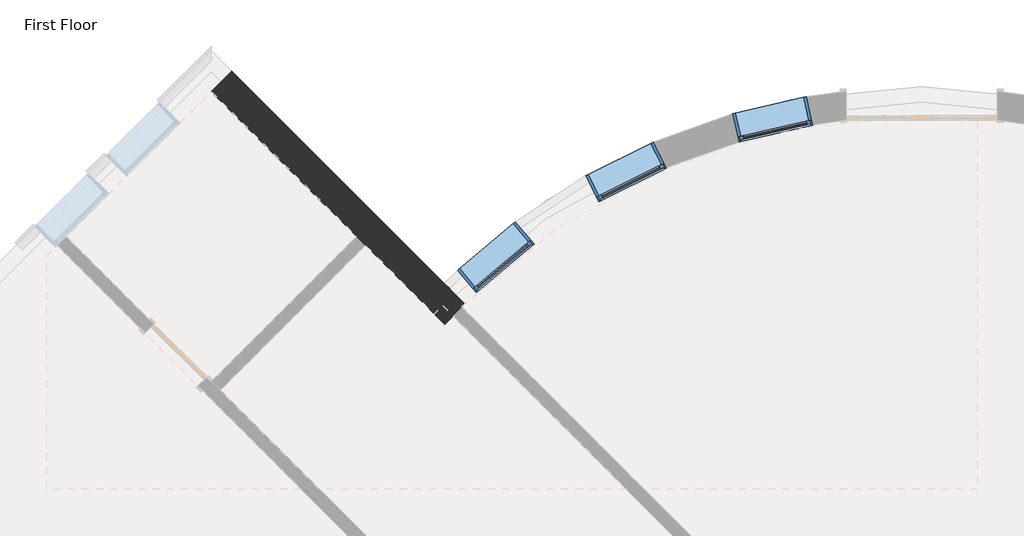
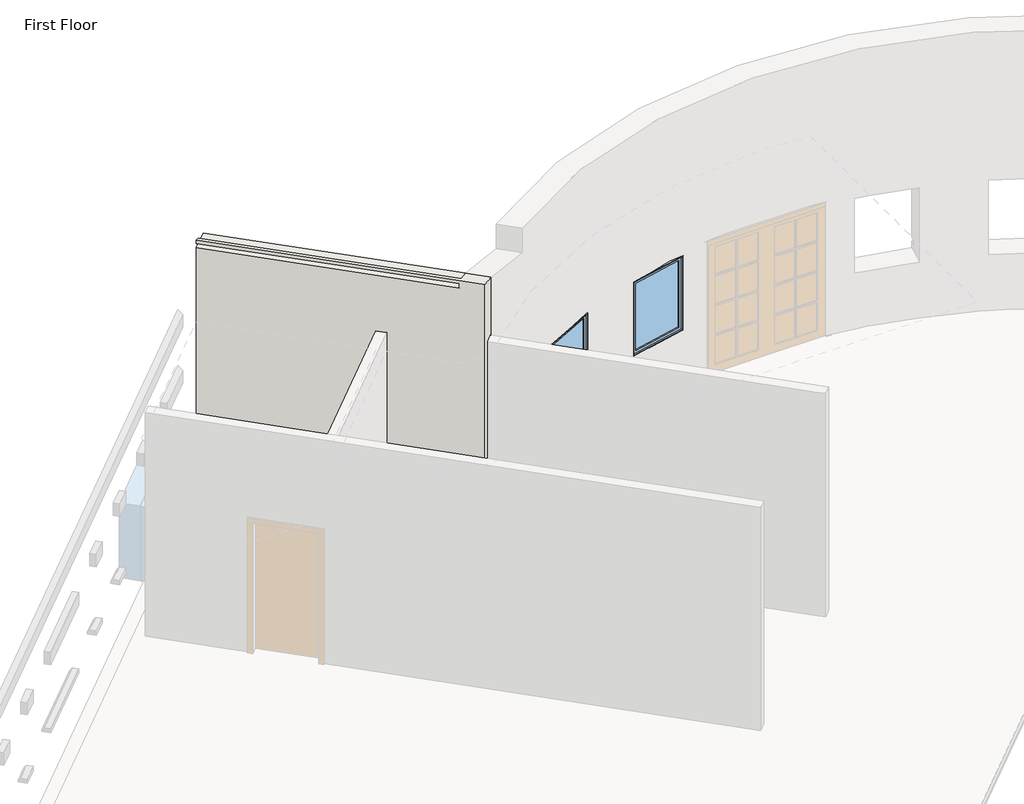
# One storey, part 4 of 7: 3 windows, 1 wall.
"""IFC4 building model written with IfcOpenShell, lengths in millimetres."""

import ifcopenshell
import ifcopenshell.guid

model = None  # the IFC model being written
_history = None  # IfcOwnerHistory: only IFC2X3 demands one
_inside = {}  # id of a spatial element -> (the spatial element, [elements in it])
_under = {}  # id of a project, library or spatial element -> (it, [spatial elements below it])
_declared = {}  # id of a project -> (the project, [libraries it declares])
_typed = {}  # id of a type object -> (the type object, [elements of that type])
_made_of = {}  # id of a material, layer set ... -> (it, [elements and type objects made of it])


def new_model(schema):
    """Start an empty IFC model of exactly this schema.

    Asked for "IFC4X3", IfcOpenShell would pick the latest addendum, in which some entities
    have other attributes; the version numbers below select the first issue.
    IFC2X3 requires an IfcOwnerHistory on every rooted entity: one is made here for all.
    """
    global model, _history
    if schema == "IFC4X3":
        model = ifcopenshell.file(schema_version=(4, 3, 0, 0))
    else:
        model = ifcopenshell.file(schema=schema)
    _inside.clear()
    _under.clear()
    _declared.clear()
    _typed.clear()
    _made_of.clear()
    _history = None
    if model.schema == "IFC2X3":
        org = make("IfcOrganization", Name="unknown")
        user = make(
            "IfcPersonAndOrganization",
            ThePerson=make("IfcPerson", FamilyName="unknown"),
            TheOrganization=org,
        )
        app = make(
            "IfcApplication",
            ApplicationDeveloper=org,
            Version="unknown",
            ApplicationFullName="unknown",
            ApplicationIdentifier="unknown",
        )
        _history = make(
            "IfcOwnerHistory",
            OwningUser=user,
            OwningApplication=app,
            ChangeAction="ADDED",
            CreationDate=0,
        )
    return model


def make(cls, **values):
    """One entity of the class cls with the attributes given. An attribute that is None is left unset."""
    return model.create_entity(
        cls, **{name: value for name, value in values.items() if value is not None}
    )


def rooted(cls, **values):
    """An entity with a GlobalId (a new one), such as an element, a storey or a relation."""
    return make(cls, GlobalId=ifcopenshell.guid.new(), OwnerHistory=_history, **values)


def si_unit(unit_type, name, prefix=None):
    """IfcSIUnit, for example si_unit("LENGTHUNIT", "METRE", prefix="MILLI")."""
    return make("IfcSIUnit", UnitType=unit_type, Prefix=prefix, Name=name)


def assignment(units):
    """IfcUnitAssignment: the units of a project."""
    return None if units is None else make("IfcUnitAssignment", Units=units)


def point(xyz):
    """IfcCartesianPoint."""
    return None if xyz is None else make("IfcCartesianPoint", Coordinates=xyz)


def direction(xyz):
    """IfcDirection."""
    return None if xyz is None else make("IfcDirection", DirectionRatios=xyz)


def frame(location, z_axis=None, x_axis=None):
    """IfcAxis2Placement3D, a coordinate frame: its origin and axes. An axis left out is left unset."""
    return make(
        "IfcAxis2Placement3D",
        Location=point(location),
        Axis=direction(z_axis),
        RefDirection=direction(x_axis),
    )


def origin():
    """The frame at (0, 0, 0) with its axes left unset."""
    return frame((0.0, 0.0, 0.0))


def place(relative_to, where):
    """IfcLocalPlacement: puts the frame where relative to a parent placement (None: the world)."""
    return make(
        "IfcLocalPlacement", PlacementRelTo=relative_to, RelativePlacement=where
    )


def context(
    kind, dimensions, precision=None, world=None, true_north=None, identifier=None
):
    """IfcGeometricRepresentationContext, for example the 3D "Model" context."""
    return make(
        "IfcGeometricRepresentationContext",
        ContextIdentifier=identifier,
        ContextType=kind,
        CoordinateSpaceDimension=dimensions,
        Precision=precision,
        WorldCoordinateSystem=world,
        TrueNorth=true_north,
    )


def project(units=None, contexts=None):
    """IfcProject with its units and contexts."""
    return rooted(
        "IfcProject",
        Name="project",
        RepresentationContexts=contexts,
        UnitsInContext=assignment(units),
    )


def spatial(cls, under=None, at=None, **own):
    """A site, building, storey or space (cls), placed at a placement, below another one or the project."""
    s = rooted(cls, ObjectPlacement=at, **own)
    if under is not None:
        _under.setdefault(under.id(), (under, []))[1].append(s)
    return s


def polyline(points):
    """IfcPolyline through the points."""
    return make("IfcPolyline", Points=[point(p) for p in points])


def circle_curve(where, radius):
    """IfcCircle in the frame where."""
    return make("IfcCircle", Position=where, Radius=radius)


def ellipse_curve(where, semi_axis1, semi_axis2):
    """IfcEllipse in the frame where."""
    return make(
        "IfcEllipse", Position=where, SemiAxis1=semi_axis1, SemiAxis2=semi_axis2
    )


def outline(outer, holes=None, kind="AREA"):
    """IfcArbitraryClosedProfileDef: a profile drawn as a closed curve; with holes, ...WithVoids."""
    if holes is None:
        return make("IfcArbitraryClosedProfileDef", ProfileType=kind, OuterCurve=outer)
    return make(
        "IfcArbitraryProfileDefWithVoids",
        ProfileType=kind,
        OuterCurve=outer,
        InnerCurves=holes,
    )


def extrude(swept, where, along, depth):
    """IfcExtrudedAreaSolid: the profile swept, set in the frame where, extruded along a direction by depth."""
    return make(
        "IfcExtrudedAreaSolid",
        SweptArea=swept,
        Position=where,
        ExtrudedDirection=direction(along),
        Depth=depth,
    )


def shape(context_of_items, identifier, shape_type, items):
    """IfcShapeRepresentation: the items that make up one representation, for example the "Body"."""
    return make(
        "IfcShapeRepresentation",
        ContextOfItems=context_of_items,
        RepresentationIdentifier=identifier,
        RepresentationType=shape_type,
        Items=items,
    )


def source(mapping_origin, context_of_items, identifier, shape_type, items):
    """IfcRepresentationMap: a shape defined once, which mapped items show again and again."""
    return make(
        "IfcRepresentationMap",
        MappingOrigin=mapping_origin,
        MappedRepresentation=shape(context_of_items, identifier, shape_type, items),
    )


def transform(
    local_origin,
    x_axis=None,
    y_axis=None,
    z_axis=None,
    scale=None,
    scale2=None,
    scale3=None,
    uniform=True,
):
    """IfcCartesianTransformationOperator3D, or its non-uniform kind. x_axis, y_axis, z_axis: its Axis1, 2, 3."""
    if uniform:
        return make(
            "IfcCartesianTransformationOperator3D",
            Axis1=direction(x_axis),
            Axis2=direction(y_axis),
            LocalOrigin=point(local_origin),
            Scale=scale,
            Axis3=direction(z_axis),
        )
    return make(
        "IfcCartesianTransformationOperator3DnonUniform",
        Axis1=direction(x_axis),
        Axis2=direction(y_axis),
        LocalOrigin=point(local_origin),
        Scale=scale,
        Axis3=direction(z_axis),
        Scale2=scale2,
        Scale3=scale3,
    )


def mapped(mapping_source, mapping_target):
    """IfcMappedItem: shows the shape of a source again, moved by a transform."""
    return make(
        "IfcMappedItem", MappingSource=mapping_source, MappingTarget=mapping_target
    )


def made_of(thing, what):
    """Note that an element or type object is made of a material, layer set ...; save() writes the relation."""
    if what is not None:
        _made_of.setdefault(what.id(), (what, []))[1].append(thing)
    return thing


def element(
    cls,
    number,
    at=None,
    inside=None,
    cuts=None,
    type_object=None,
    material=None,
    context=None,
    identifier="Body",
    shape_type=None,
    held_by="IfcProductDefinitionShape",
    body=None,
    shapes=None,
    **own,
):
    """One element of the class cls, such as IfcWall. Its Tag is "e" and its number.

    at: its placement. inside: the storey or other place that contains it. cuts: it is an
    opening in that element (IfcRelVoidsElement). A single representation is given by context,
    identifier, shape_type and body (its items); several are given by shapes. held_by: the class
    of the entity that holds the representations. save() writes the other relations.
    """
    e = rooted(cls, Tag="e%d" % number, ObjectPlacement=at, **own)
    if body is not None:
        shapes = [shape(context, identifier, shape_type, body)]
    if shapes is not None:
        e.Representation = make(held_by, Representations=shapes)
    if inside is not None:
        _inside.setdefault(inside.id(), (inside, []))[1].append(e)
    if cuts is not None:
        rooted(
            "IfcRelVoidsElement", RelatingBuildingElement=cuts, RelatedOpeningElement=e
        )
    if type_object is not None:
        _typed.setdefault(type_object.id(), (type_object, []))[1].append(e)
    return made_of(e, material)


def aggregate(whole, parts):
    """IfcRelAggregates: a whole, such as a stair, and the parts it consists of."""
    return rooted("IfcRelAggregates", RelatingObject=whole, RelatedObjects=parts)


def save(model, path):
    """Write the relations noted so far, then the file.

    IfcRelAggregates (storeys below a building ...), IfcRelContainedInSpatialStructure (elements
    in a storey), IfcRelDefinesByType, IfcRelAssociatesMaterial and IfcRelDeclares: one each for
    every whole, place, type object, material and project.
    """
    for whole, parts in _under.values():
        aggregate(whole, parts)
    for where, things in _inside.values():
        rooted(
            "IfcRelContainedInSpatialStructure",
            RelatedElements=things,
            RelatingStructure=where,
        )
    for kind, things in _typed.values():
        rooted("IfcRelDefinesByType", RelatedObjects=things, RelatingType=kind)
    for what, things in _made_of.values():
        rooted("IfcRelAssociatesMaterial", RelatedObjects=things, RelatingMaterial=what)
    for by, libraries in _declared.values():
        rooted("IfcRelDeclares", RelatingContext=by, RelatedDefinitions=libraries)
    model.write(path)


def plane_surface(at):
    """IfcPlane: the flat surface through the origin of the frame at, square to its z axis."""
    return make("IfcPlane", Position=at)


def cylinder_surface(at, radius):
    """IfcCylindricalSurface: all points at the distance radius from the z axis of the frame at."""
    return make("IfcCylindricalSurface", Position=at, Radius=radius)


def revolved_surface(curve, axis_point, axis_direction):
    """IfcSurfaceOfRevolution: the curve turned about the line through axis_point along axis_direction."""
    return make(
        "IfcSurfaceOfRevolution",
        SweptCurve=make("IfcArbitraryOpenProfileDef", ProfileType="CURVE", Curve=curve),
        AxisPosition=make("IfcAxis1Placement", Location=point(axis_point), Axis=direction(axis_direction)),
    )


def advanced_brep(points, edges, surfaces, faces):
    """IfcAdvancedBrep: a solid bounded by faces that lie on surfaces and meet in shared edges.

    An edge is (start, end): straight between two places in points (the first is 0);
    or (start, end, curve); or (start, end, curve, False) where it runs against its curve.
    A face is (place in surfaces, loops), or (place, loops, False) where it looks against
    its surface's normal. A loop lists edges by number (the first is 1), with a minus sign
    where the edge is run from its end to its start. The first loop is the outer one.
    """
    corners = [point(p) for p in points]
    vertices = [make("IfcVertexPoint", VertexGeometry=c) for c in corners]
    made = []
    for start, end, *more in edges:
        made.append(
            make(
                "IfcEdgeCurve",
                EdgeStart=vertices[start],
                EdgeEnd=vertices[end],
                EdgeGeometry=more[0] if more else make("IfcPolyline", Points=[corners[start], corners[end]]),
                SameSense=more[1] if len(more) > 1 else True,
            )
        )
    hull = []
    for where, loops, *sense in faces:
        bounds = []
        for j, loop in enumerate(loops):
            ring = [make("IfcOrientedEdge", EdgeElement=made[abs(k) - 1], Orientation=k > 0) for k in loop]
            bounds.append(
                make(
                    "IfcFaceOuterBound" if j == 0 else "IfcFaceBound",
                    Bound=make("IfcEdgeLoop", EdgeList=ring),
                    Orientation=True,
                )
            )
        hull.append(make("IfcAdvancedFace", Bounds=bounds, FaceSurface=surfaces[where], SameSense=sense[0] if sense else True))
    return make("IfcAdvancedBrep", Outer=make("IfcClosedShell", CfsFaces=hull))


def window_15c49d37(model_context):
    return source(origin(), model_context, "Body", "SweptSolid", [
        extrude(outline(polyline([(355.6, 128.5875), (-431.8, 128.5875), (-431.8, 141.2875), (355.6, 141.2875), (355.6, 128.5875)])), frame((0.0, 0.0, 977.9), z_axis=(0.0, 0.0, 1.0), x_axis=(1.0, 0.0, 0.0)), (0.0, 0.0, 1.0), 1092.2),
        extrude(outline(polyline([(2114.55, -476.25), (933.45, -476.25), (933.45, 400.05), (2114.55, 400.05), (2114.55, -476.25)]), holes=[polyline([(2070.1, -431.8), (2070.1, 355.6), (977.9, 355.6), (977.9, -431.8), (2070.1, -431.8)])]), frame((0.0, 112.7125, 0.0), z_axis=(0.0, 1.0, 0.0), x_axis=(0.0, 0.0, 1.0)), (0.0, 0.0, 1.0), 44.45),
        extrude(outline(polyline([(2133.6, -495.3), (914.4, -495.3), (914.4, 419.1), (2133.6, 419.1), (2133.6, -495.3)]), holes=[polyline([(2101.85, -463.55), (2101.85, 387.35), (946.15, 387.35), (946.15, -463.55), (2101.85, -463.55)])]), frame((0.0, -176.2125, 0.0), z_axis=(0.0, 1.0, 0.0), x_axis=(0.0, 0.0, 1.0)), (0.0, 0.0, 1.0), 288.925),
        extrude(outline(polyline([(2133.6, 419.1), (2133.6, -495.3), (914.4, -495.3), (914.4, 419.1), (2133.6, 419.1)]), holes=[polyline([(2114.55, 400.05), (933.45, 400.05), (933.45, -476.25), (2114.55, -476.25), (2114.55, 400.05)])]), frame((0.0, 112.7125, 0.0), z_axis=(0.0, 1.0, 0.0), x_axis=(0.0, 0.0, 1.0)), (0.0, 0.0, 1.0), 63.5),
    ])


model = new_model("IFC4")

# Units and contexts
model_context = context("Model", 3, world=origin())
ifc_project = project(units=[si_unit("LENGTHUNIT", "METRE", prefix="MILLI")], contexts=[model_context])

# Site, building, storey
site = spatial("IfcSite", under=ifc_project)
building = spatial("IfcBuilding", under=site)
storey = spatial("IfcBuildingStorey", under=building, Name="First Floor", Elevation=0.0)

# Wall
placement = place(None, origin())
element("IfcWall", 1, ObjectType="Exterior - Split Face and CMU on Mtl. Stud", at=placement, inside=storey, context=model_context, shape_type="AdvancedBrep", body=[
    advanced_brep(
    [(-8658.0122729, 8244.1131219, 0.0), (-8658.0122729, 8244.1131219, 4689.475), (-11489.0742405, 11075.1750895, 4689.475), (-11489.0742405, 11075.1750895, 4639.3965909), (-8911.6883314, 8497.7891804, 4639.3965909), (-8911.6883314, 8497.7891804, 4572.0), (-11489.0742405, 11075.1750895, 4572.0), (-11489.0742405, 11075.1750895, 0.0), (-9728.9440408, 9315.0448898, 0.0), (-9618.9359033, 9205.0367523, 0.0), (-8413.2817722, 8497.7868359, 4572.0), (-8413.2817722, 8497.7868359, 0.0), (-8662.486224, 8746.9912878, 0.0), (-11239.8721332, 11324.3771969, 0.0), (-11239.8721332, 11324.3771969, 1016.0), (-8662.486224, 8746.9912878, 1016.0), (-8597.3787742, 8681.8838379, 1016.0), (-8597.3787742, 8681.8838379, 1085.85), (-8662.486224, 8746.9912878, 1085.85), (-11239.8721332, 11324.3771969, 1085.85), (-11239.8721332, 11324.3771969, 2133.6), (-8662.486224, 8746.9912878, 2133.6), (-8597.3787742, 8681.8838379, 2133.6), (-8597.3787742, 8681.8838379, 2336.8), (-8662.486224, 8746.9912878, 2336.8), (-11239.8721332, 11324.3771969, 2336.8), (-11239.8721332, 11324.3771969, 3048.0), (-8662.486224, 8746.9912878, 3048.0), (-8597.3787742, 8681.8838379, 3048.0), (-8597.3787742, 8681.8838379, 3251.2), (-8662.486224, 8746.9912878, 3251.2), (-11239.8721332, 11324.3771969, 3251.2), (-11239.8721332, 11324.3771969, 4572.0), (-8662.486224, 8746.9912878, 4572.0), (-11304.9789901, 11259.27034, 3251.2), (-11304.9789901, 11259.27034, 3048.0), (-11304.9789901, 11259.27034, 2336.8), (-11304.9789901, 11259.27034, 2133.6), (-11304.9789901, 11259.27034, 1085.85), (-11304.9789901, 11259.27034, 1016.0), (-11413.683542, 11150.5657881, 4653.9354839), (-8557.7157352, 8350.8336041, 0.0), (-8449.0111375, 8462.1452813, 0.0), (-8836.2976328, 8573.179879, 4653.9354839), (-8662.3967205, 8616.6880705, 1085.85), (-8662.3967205, 8616.6880705, 1016.0), (-8662.3967205, 8616.6880705, 2336.8), (-8662.3967205, 8616.6880705, 2133.6), (-8662.3967205, 8616.6880705, 3251.2), (-8662.3967205, 8616.6880705, 3048.0)],
    [
        (0, 1),
        (1, 2),
        (2, 3),
        (3, 4),
        (4, 5),
        (5, 6),
        (6, 7),
        (7, 8),
        (8, 9),
        (9, 0),
        (10, 11),
        (11, 12),
        (12, 13),
        (13, 14),
        (14, 15),
        (15, 16),
        (16, 17),
        (17, 18),
        (18, 19),
        (19, 20),
        (20, 21),
        (21, 22),
        (22, 23),
        (23, 24),
        (24, 25),
        (25, 26),
        (26, 27),
        (27, 28),
        (28, 29),
        (29, 30),
        (30, 31),
        (31, 32),
        (32, 33),
        (33, 10),
        (13, 7),
        (6, 32),
        (31, 34),
        (34, 35),
        (35, 26),
        (25, 36),
        (36, 37),
        (37, 20),
        (19, 38),
        (38, 39),
        (39, 14),
        (2, 40),
        (40, 3),
        (0, 41, circle_curve(frame((-2868.0283643, 2903.1420194, 0.0), z_axis=(0.0, 0.0, -1.0), x_axis=(1.0, 0.0, 0.0)), 7877.175)),
        (41, 42, circle_curve(frame((-2868.0283643, 2903.1420194, 0.0), z_axis=(0.0, 0.0, -1.0), x_axis=(1.0, 0.0, 0.0)), 7877.175)),
        (42, 11, circle_curve(frame((-2868.0283643, 2903.1420194, 0.0), z_axis=(0.0, 0.0, -1.0), x_axis=(1.0, 0.0, 0.0)), 7877.175)),
        (10, 1, ellipse_curve(frame((-2868.0283643, 2903.1420194, 4583.6416667), z_axis=(0.2236067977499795, 0.22360679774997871, 0.9486832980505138), x_axis=(0.6708203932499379, 0.6708203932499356, -0.31622776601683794)), 8303.2715092, 7877.175)),
        (33, 43),
        (43, 40),
        (44, 45),
        (45, 39),
        (38, 44),
        (17, 44, circle_curve(frame((-2868.0283643, 2903.1420194, 1085.85), z_axis=(0.0, 0.0, 1.0), x_axis=(-0.7040995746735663, 0.7101012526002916, 0.0)), 8137.525)),
        (45, 16, circle_curve(frame((-2868.0283643, 2903.1420194, 1016.0), z_axis=(0.0, 0.0, -1.0), x_axis=(-0.7040995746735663, 0.7101012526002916, 0.0)), 8137.525)),
        (46, 47),
        (47, 37),
        (36, 46),
        (47, 22, circle_curve(frame((-2868.0283643, 2903.1420194, 2133.6), z_axis=(0.0, 0.0, -1.0), x_axis=(-0.7120553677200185, 0.70212331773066, 0.0)), 8137.525)),
        (46, 23, circle_curve(frame((-2868.0283643, 2903.1420194, 2336.8), z_axis=(0.0, 0.0, -1.0), x_axis=(-0.7120553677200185, 0.70212331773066, 0.0)), 8137.525)),
        (48, 49),
        (49, 35),
        (34, 48),
        (49, 28, circle_curve(frame((-2868.0283643, 2903.1420194, 3048.0), z_axis=(0.0, 0.0, -1.0), x_axis=(-0.7120553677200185, 0.70212331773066, 0.0)), 8137.525)),
        (48, 29, circle_curve(frame((-2868.0283643, 2903.1420194, 3251.2), z_axis=(0.0, 0.0, -1.0), x_axis=(-0.7120553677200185, 0.70212331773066, 0.0)), 8137.525)),
        (5, 33),
        (4, 43),
    ],
    [
        plane_surface(frame((-11738.2763479, 11324.3771969, 0.0), z_axis=(-0.7071067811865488, -0.7071067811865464, 0.0), x_axis=(0.7071067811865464, -0.7071067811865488, 0.0))),
        plane_surface(frame((-11489.0742405, 11573.5793042, 0.0), z_axis=(0.7071067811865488, 0.7071067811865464, 0.0), x_axis=(-0.7071067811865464, 0.7071067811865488, 0.0))),
        plane_surface(frame((-24171.4409475, -1607.1916175, 0.0), z_axis=(-0.7071067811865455, 0.7071067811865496, 0.0), x_axis=(0.7071067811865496, 0.7071067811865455, 0.0))),
        revolved_surface(polyline([(5009.146635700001, 2903.1420194, 0.0), (5009.146635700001, 2903.1420194, 7209.366666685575)]), (-2868.0283643, 2903.1420194, 0.0), (0.0, 0.0, -1.0)),
        plane_surface(frame((-1143.8191891, 2952.533428, 4165.6), z_axis=(0.2236067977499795, 0.22360679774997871, 0.9486832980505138), x_axis=(-0.7071067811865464, 0.7071067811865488, 0.0))),
        plane_surface(frame((-11364.4731869, 11448.9782506, 0.0), z_axis=(0.0, 0.0, -1.0), x_axis=(-0.7071067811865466, 0.7071067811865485, 0.0))),
        plane_surface(frame((-11489.0742405, 11443.3655905, 1016.0), z_axis=(0.7071067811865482, 0.7071067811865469, 0.0), x_axis=(0.7071067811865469, -0.7071067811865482, 0.0))),
        plane_surface(frame((-2868.0283643, 2903.1420194, 1085.85), z_axis=(0.0, 0.0, -1.0), x_axis=(-0.7040995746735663, 0.7101012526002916, 0.0))),
        plane_surface(frame((-2868.0283643, 2903.1420194, 1016.0), z_axis=(0.0, 0.0, 1.0), x_axis=(-0.7040995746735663, 0.7101012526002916, 0.0))),
        cylinder_surface(frame((-2868.0283643, 2903.1420194, 1016.0), z_axis=(0.0, 0.0, -1.0), x_axis=(-0.7040995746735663, 0.7101012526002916, 0.0)), 8137.525),
        plane_surface(frame((-11489.0742405, 11443.3655905, 2133.6), z_axis=(0.7071067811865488, 0.7071067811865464, 0.0), x_axis=(0.7071067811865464, -0.7071067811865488, 0.0))),
        plane_surface(frame((-2868.0283643, 2903.1420194, 2133.6), z_axis=(0.0, 0.0, 1.0), x_axis=(-0.7120553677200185, 0.70212331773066, 0.0))),
        cylinder_surface(frame((-2868.0283643, 2903.1420194, 2133.6), z_axis=(0.0, 0.0, -1.0), x_axis=(-0.7120553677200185, 0.70212331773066, 0.0)), 8137.525),
        plane_surface(frame((-2868.0283643, 2903.1420194, 2336.8), z_axis=(0.0, 0.0, -1.0), x_axis=(-0.7120553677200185, 0.70212331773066, 0.0))),
        plane_surface(frame((-11489.0742405, 11443.3655905, 3048.0), z_axis=(0.7071067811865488, 0.7071067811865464, 0.0), x_axis=(0.7071067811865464, -0.7071067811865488, 0.0))),
        plane_surface(frame((-2868.0283643, 2903.1420194, 3048.0), z_axis=(0.0, 0.0, 1.0), x_axis=(-0.7120553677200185, 0.70212331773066, 0.0))),
        cylinder_surface(frame((-2868.0283643, 2903.1420194, 3048.0), z_axis=(0.0, 0.0, -1.0), x_axis=(-0.7120553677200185, 0.70212331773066, 0.0)), 8137.525),
        plane_surface(frame((-2868.0283643, 2903.1420194, 3251.2), z_axis=(0.0, 0.0, -1.0), x_axis=(-0.7120553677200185, 0.70212331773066, 0.0))),
        plane_surface(frame((-24438.6035671, -1340.0289979, 4572.0), z_axis=(0.0, 0.0, 1.0), x_axis=(0.7071067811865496, 0.7071067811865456, 0.0))),
        plane_surface(frame((-8662.486224, 8746.9912878, 4185.7445793), z_axis=(-0.7071067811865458, 0.7071067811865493, 0.0), x_axis=(0.7071067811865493, 0.7071067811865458, 0.0))),
        plane_surface(frame((-11489.0742405, 11034.763937, 4635.5), z_axis=(0.0955394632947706, 0.09553946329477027, -0.9908301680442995), x_axis=(0.7071067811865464, -0.7071067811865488, 0.0))),
    ],
    [
        (0, [[1, 2, 3, 4, 5, 6, 7, 8, 9, 10]]),
        (1, [[11, 12, 13, 14, 15, 16, 17, 18, 19, 20, 21, 22, 23, 24, 25, 26, 27, 28, 29, 30, 31, 32, 33, 34]]),
        (2, [[35, -7, 36, -32, 37, 38, 39, -26, 40, 41, 42, -20, 43, 44, 45, -14]]),
        (2, [[-3, 46, 47]]),
        (3, [[48, 49, 50, -11, 51, -1]]),
        (4, [[-2, -51, -34, 52, 53, -46]]),
        (5, [[-50, -49, -48, -10, -9, -8, -35, -13, -12]]),
        (6, [[54, 55, -44, 56]]),
        (7, [[57, -56, -43, -19, -18]]),
        (8, [[-55, 58, -16, -15, -45]]),
        (9, [[-54, -57, -17, -58]]),
        (10, [[59, 60, -41, 61]]),
        (11, [[-60, 62, -22, -21, -42]]),
        (12, [[-59, 63, -23, -62]]),
        (13, [[-63, -61, -40, -25, -24]]),
        (14, [[64, 65, -38, 66]]),
        (15, [[-65, 67, -28, -27, -39]]),
        (16, [[-64, 68, -29, -67]]),
        (17, [[-68, -66, -37, -31, -30]]),
        (18, [[69, -33, -36, -6]]),
        (19, [[70, -52, -69, -5]]),
        (20, [[-70, -4, -47, -53]]),
    ],
),
])

# Windows
window_shape = window_15c49d37(model_context)
element("IfcWindow", 2, ObjectType="Fixed : 36\" x 48\"", at=placement, inside=storey, context=model_context, shape_type="MappedRepresentation", body=[
    mapped(window_shape, transform((-8066.2237793, 9037.6928325, 0.0), x_axis=(-0.7659856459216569, -0.6428576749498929, 0.0), y_axis=(0.6428576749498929, -0.7659856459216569, 0.0), z_axis=(0.0, 0.0, 1.0))),
])
element("IfcWindow", 3, ObjectType="Fixed : 36\" x 48\"", at=placement, inside=storey, context=model_context, shape_type="MappedRepresentation", body=[
    mapped(window_shape, transform((-4714.6266038, 10728.998151, 0.0), x_axis=(-0.9743494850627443, -0.2250401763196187, 0.0), y_axis=(0.2250401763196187, -0.9743494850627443, 0.0), z_axis=(0.0, 0.0, 1.0))),
])
element("IfcWindow", 4, ObjectType="Fixed : 36\" x 48\"", at=placement, inside=storey, context=model_context, shape_type="MappedRepresentation", body=[
    mapped(window_shape, transform((-6490.5147795, 10081.6893252, 0.0), x_axis=(-0.8948935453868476, -0.4462796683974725, 0.0), y_axis=(0.4462796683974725, -0.8948935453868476, 0.0), z_axis=(0.0, 0.0, 1.0))),
])

save(model, "model.ifc")
